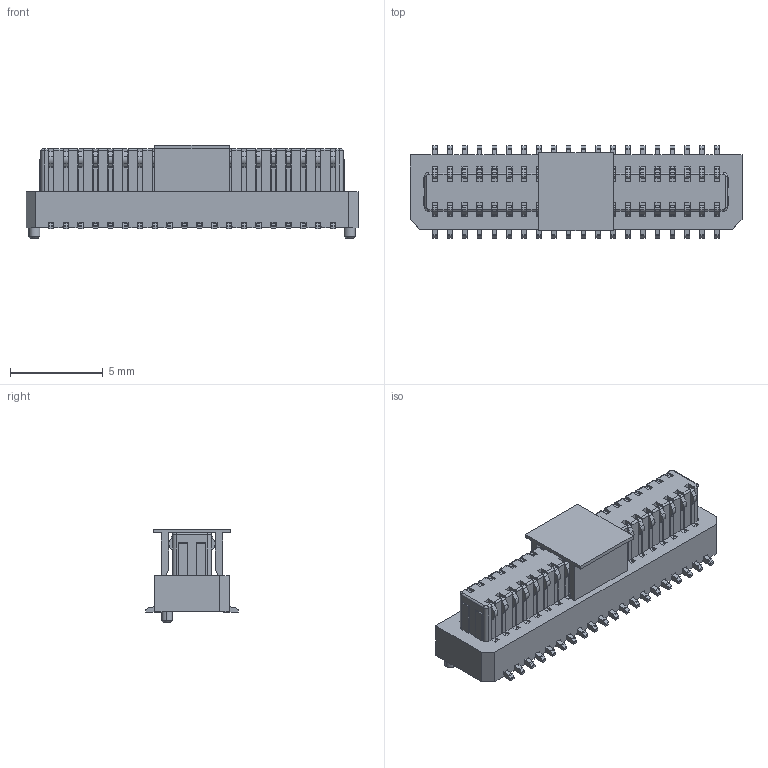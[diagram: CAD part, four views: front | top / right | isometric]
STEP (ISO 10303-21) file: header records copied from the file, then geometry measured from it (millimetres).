
FILE_DESCRIPTION(('CATIA V5 STEP Exchange'),'2;1');
FILE_NAME('F:\黄富鸿\板对板\PBB08B\公座\H4.3\带盖\HC-PBB08B-1-40-M-H4.3-XX-R-P-06 (BTB0.8 单槽 B型公座 立贴 带柱 编带+盖)-HCTL.stp','2026-01-28T06:05:50+00:00',('none'),('none'),'CATIA Version 5 Release 20 GA (IN-10)','CATIA V5 STEP AP203','none');
FILE_SCHEMA(('CONFIG_CONTROL_DESIGN'));
Products named in the file (1): Part1
Bounding box: 17.9 x 5 x 5.05 mm (x, y, z)
Volume: 217.6 mm3; surface area: 1023.4 mm2
Topology: 42 solids, 42 shells, 2187 faces, 6448 edges, 4268 vertices
Faces by surface type: plane 1487, cylinder 692, cone 4, torus 4
Entity records: 67231 total; most frequent: ORIENTED_EDGE 12896, CARTESIAN_POINT 12089, DIRECTION 9192, EDGE_CURVE 6448, VECTOR 5056, LINE 5056, VERTEX_POINT 4268, AXIS2_PLACEMENT_3D 2765
